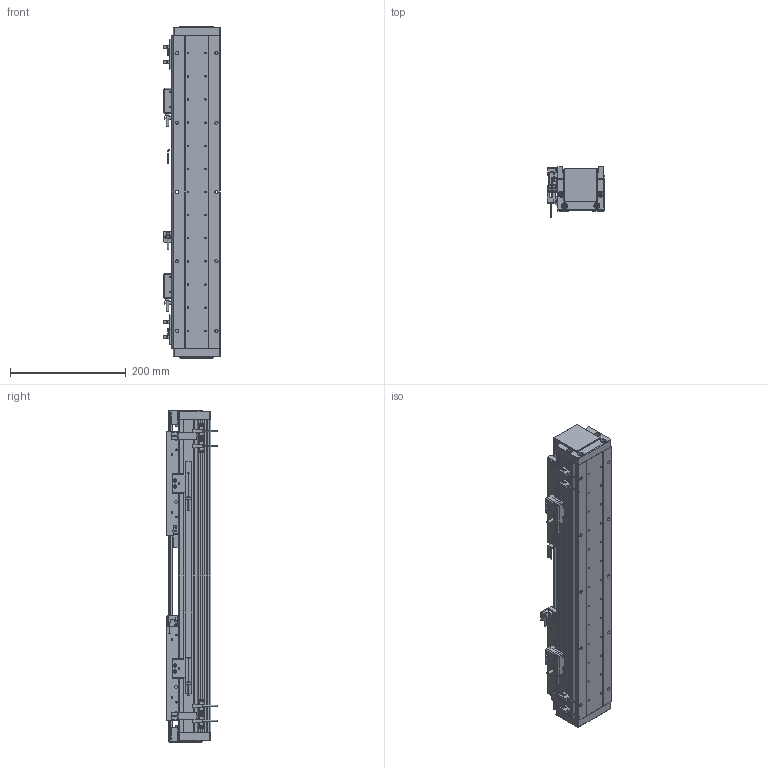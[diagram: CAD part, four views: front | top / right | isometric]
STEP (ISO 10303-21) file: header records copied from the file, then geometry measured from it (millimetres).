
FILE_DESCRIPTION (( 'STEP AP203' ), '1' );
FILE_NAME ('DA-A82-2-B2-T120-C010-0.2 眻盄萇儂.STEP', '2025-08-13T02:26:48', ( '' ), ( '' ), 'SwSTEP 2.0', 'SolidWorks 2019', '' );
FILE_SCHEMA (( 'CONFIG_CONTROL_DESIGN' ));
Length unit declared in the file: millimetre
Products named in the file (27): IU-AU82-L-00 菁釱(L540); DA-A82-2-B2-T120-C010-0.2 眻盄萇儂; 葩璃 PM-L25^DA-A82-B2-T-C010-0.2-N 眻盄萇儂; IU-AU82-L 菁釱絳寢; 复件 复件 DA82-XJ-00 缓冲橡胶^DA-A82-B2-T-C010-0.2-N 直线电机; 复件 DA95-B2-GT-00 滑块钢轨^AU82-M-00 一体化滑动台板; 复件 DA60-DMT-DTJ-00 读数头支架^DA-A82-B2-T-C010-0.2-N 直线电机; AU82-M-00 珨极趙賑雄怢啣; 复件 纯铜油杯 6x6mm^AU82-M 滚珠滑台; AU82-M 幗紩賑怢; 复件 DA95-GT-T-00 底座钢轨^IU-AU82-L 底座导轨; AU82-M 幗紩賑怢-1; 复件 DA82-GDZ-ZJ-00 中间光电固定座^DA-A82-B2-T-C010-0.2-N 直线电机; 复件 DA82-GYP-ZJ-00 中间光电感应片^DA-A82-B2-T-C010-0.2-N 直线电机; 复件 六角薄螺母 M3^DA-A82-B2-T-C010-0.2-N 直线电机; 复件 DA82-DG-H-N-00 端盖^DA-A82-B2-T-C010-0.2-N 直线电机(默认_按加工_); 葩璃 PM-T45^DA-A82-B2-T-C010-0.2-N 眻盄萇儂; 复件 BKM02-W040-C1-TP-DA-3.0 直线电机动子^DA-A82-B2-T-C010-0.2-N 直线电机; AU82-M-00 珨极趙賑雄怢啣-1; 葩璃 DMT-010 1米m 0.2M^DA-A82-B2-T-C010-0.2-N 眻盄萇儂; 复件 DA82-T-002-00 盖板^DA-A82-B2-T-C010-0.2-N 直线电机; 葩璃 BKM01-W040-TRL^DA-A82-B2-T-C010-0.2-N 眻盄萇儂; 葩璃 DA82-B2-DP-00 結え^AU82-M 幗紩賑怢; AU82-HT-M-00 賑雄怢啣; 复件 DKW-GJ-XJ-00 防撞橡胶^DA-A82-B2-T-C010-0.2-N 直线电机; DA-A60-GYP-DMT-00 光电感应片^DA-A82-B2-T-C010-0.2-N 直线电机(默认); 复件 XD-U-02  磁栅尺^DA-A82-B2-T-C010-0.2-N 直线电机
Assembly tree (57 placements, depth 4):
  DA-A82-2-B2-T120-C010-0.2 眻盄萇儂
    IU-AU82-L 菁釱絳寢
      IU-AU82-L-00 菁釱(L540)
      复件 DA95-GT-T-00 底座钢轨^IU-AU82-L 底座导轨  x2
    AU82-M 幗紩賑怢
      AU82-M-00 珨极趙賑雄怢啣
        AU82-HT-M-00 賑雄怢啣
        复件 DA95-B2-GT-00 滑块钢轨^AU82-M-00 一体化滑动台板  x4
      葩璃 DA82-B2-DP-00 結え^AU82-M 幗紩賑怢  x2
      复件 纯铜油杯 6x6mm^AU82-M 滚珠滑台  x2
    AU82-M 幗紩賑怢-1
      AU82-M-00 珨极趙賑雄怢啣-1
        AU82-HT-M-00 賑雄怢啣
        复件 DA95-B2-GT-00 滑块钢轨^AU82-M-00 一体化滑动台板  x4
      葩璃 DA82-B2-DP-00 結え^AU82-M 幗紩賑怢  x2
      复件 纯铜油杯 6x6mm^AU82-M 滚珠滑台  x2
    复件 BKM02-W040-C1-TP-DA-3.0 直线电机动子^DA-A82-B2-T-C010-0.2-N 直线电机  x2
    复件 DA60-DMT-DTJ-00 读数头支架^DA-A82-B2-T-C010-0.2-N 直线电机  x2
    葩璃 DMT-010 1米m 0.2M^DA-A82-B2-T-C010-0.2-N 眻盄萇儂  x2
    DA-A60-GYP-DMT-00 光电感应片^DA-A82-B2-T-C010-0.2-N 直线电机(默认)  x2
    复件 DA82-GDZ-ZJ-00 中间光电固定座^DA-A82-B2-T-C010-0.2-N 直线电机
    葩璃 PM-L25^DA-A82-B2-T-C010-0.2-N 眻盄萇儂
    复件 DA82-GYP-ZJ-00 中间光电感应片^DA-A82-B2-T-C010-0.2-N 直线电机
    复件 DKW-GJ-XJ-00 防撞橡胶^DA-A82-B2-T-C010-0.2-N 直线电机
    复件 复件 DA82-XJ-00 缓冲橡胶^DA-A82-B2-T-C010-0.2-N 直线电机  x2
    复件 DA82-DG-H-N-00 端盖^DA-A82-B2-T-C010-0.2-N 直线电机(默认_按加工_)  x2
    复件 DA82-T-002-00 盖板^DA-A82-B2-T-C010-0.2-N 直线电机
    葩璃 BKM01-W040-TRL^DA-A82-B2-T-C010-0.2-N 眻盄萇儂
    葩璃 PM-T45^DA-A82-B2-T-C010-0.2-N 眻盄萇儂  x4
    复件 XD-U-02  磁栅尺^DA-A82-B2-T-C010-0.2-N 直线电机
    复件 六角薄螺母 M3^DA-A82-B2-T-C010-0.2-N 直线电机  x8
Bounding box: 98.95 x 87.2 x 574 mm (x, y, z)
Volume: 2527281.9 mm3; surface area: 694608.8 mm2
Topology: 66 solids, 114 shells, 2923 faces, 7375 edges, 4512 vertices
Faces by surface type: plane 1208, cylinder 1205, cone 436, torus 46, bspline 20, sphere 8
Entity records: 53021 total; most frequent: CARTESIAN_POINT 10928, DIRECTION 8284, ORIENTED_EDGE 7702, EDGE_CURVE 3851, AXIS2_PLACEMENT_3D 3065, VERTEX_POINT 2483, VECTOR 2154, LINE 2154
